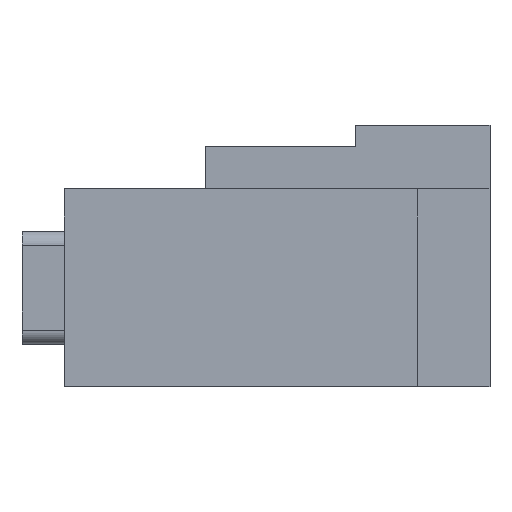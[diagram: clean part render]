
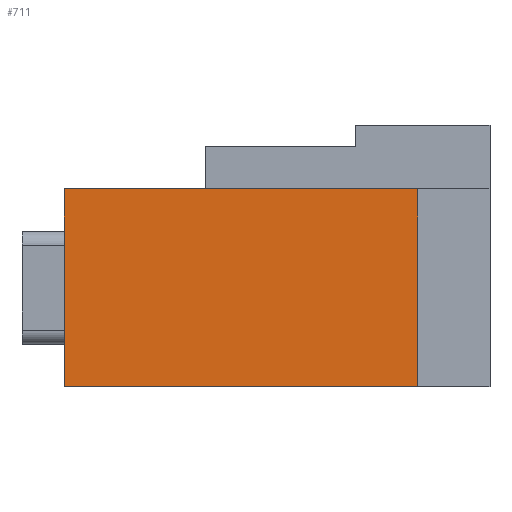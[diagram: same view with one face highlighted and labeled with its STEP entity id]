
A CAD part, front view. The second image highlights one B-rep face of the part: STEP entity #711.
In plain terms, the highlighted planar face has unit normal (0, -1, 0).
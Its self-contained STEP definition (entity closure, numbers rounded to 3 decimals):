
#72 = PLANE('',#73);
#73 = AXIS2_PLACEMENT_3D('',#74,#75,#76);
#74 = CARTESIAN_POINT('',(-155.,0.,0.));
#75 = DIRECTION('',(-1.,-0.,-0.));
#76 = DIRECTION('',(0.,0.,-1.));
#304 = EDGE_CURVE('',#305,#307,#309,.T.);
#305 = VERTEX_POINT('',#306);
#306 = CARTESIAN_POINT('',(-155.,0.,0.));
#307 = VERTEX_POINT('',#308);
#308 = CARTESIAN_POINT('',(-155.,0.,28.));
#309 = SURFACE_CURVE('',#310,(#314,#321),.PCURVE_S1.);
#310 = LINE('',#311,#312);
#311 = CARTESIAN_POINT('',(-155.,0.,0.));
#312 = VECTOR('',#313,1.);
#313 = DIRECTION('',(-0.,-0.,1.));
#314 = PCURVE('',#72,#315);
#315 = DEFINITIONAL_REPRESENTATION('',(#316),#320);
#316 = LINE('',#317,#318);
#317 = CARTESIAN_POINT('',(-0.,-0.));
#318 = VECTOR('',#319,1.);
#319 = DIRECTION('',(-1.,-0.));
#320 = ( GEOMETRIC_REPRESENTATION_CONTEXT(2) 
PARAMETRIC_REPRESENTATION_CONTEXT() REPRESENTATION_CONTEXT('2D SPACE',''
  ) );
#321 = PCURVE('',#322,#327);
#322 = PLANE('',#323);
#323 = AXIS2_PLACEMENT_3D('',#324,#325,#326);
#324 = CARTESIAN_POINT('',(-155.,0.,0.));
#325 = DIRECTION('',(-0.,1.,-0.));
#326 = DIRECTION('',(0.,0.,-1.));
#327 = DEFINITIONAL_REPRESENTATION('',(#328),#332);
#328 = LINE('',#329,#330);
#329 = CARTESIAN_POINT('',(-0.,-0.));
#330 = VECTOR('',#331,1.);
#331 = DIRECTION('',(-1.,0.));
#332 = ( GEOMETRIC_REPRESENTATION_CONTEXT(2) 
PARAMETRIC_REPRESENTATION_CONTEXT() REPRESENTATION_CONTEXT('2D SPACE',''
  ) );
#350 = PLANE('',#351);
#351 = AXIS2_PLACEMENT_3D('',#352,#353,#354);
#352 = CARTESIAN_POINT('',(-155.,0.,0.));
#353 = DIRECTION('',(-0.,-0.,1.));
#354 = DIRECTION('',(1.,0.,0.));
#473 = PLANE('',#474);
#474 = AXIS2_PLACEMENT_3D('',#475,#476,#477);
#475 = CARTESIAN_POINT('',(-155.,0.,28.));
#476 = DIRECTION('',(-0.,-0.,1.));
#477 = DIRECTION('',(1.,0.,0.));
#711 = ADVANCED_FACE('',(#712),#322,.F.);
#712 = FACE_BOUND('',#713,.T.);
#713 = EDGE_LOOP('',(#714,#737,#738,#761));
#714 = ORIENTED_EDGE('',*,*,#715,.F.);
#715 = EDGE_CURVE('',#305,#716,#718,.T.);
#716 = VERTEX_POINT('',#717);
#717 = CARTESIAN_POINT('',(-205.,0.,0.));
#718 = SURFACE_CURVE('',#719,(#723,#730),.PCURVE_S1.);
#719 = LINE('',#720,#721);
#720 = CARTESIAN_POINT('',(-155.,0.,0.));
#721 = VECTOR('',#722,1.);
#722 = DIRECTION('',(-1.,-0.,-0.));
#723 = PCURVE('',#322,#724);
#724 = DEFINITIONAL_REPRESENTATION('',(#725),#729);
#725 = LINE('',#726,#727);
#726 = CARTESIAN_POINT('',(-0.,-0.));
#727 = VECTOR('',#728,1.);
#728 = DIRECTION('',(-0.,1.));
#729 = ( GEOMETRIC_REPRESENTATION_CONTEXT(2) 
PARAMETRIC_REPRESENTATION_CONTEXT() REPRESENTATION_CONTEXT('2D SPACE',''
  ) );
#730 = PCURVE('',#350,#731);
#731 = DEFINITIONAL_REPRESENTATION('',(#732),#736);
#732 = LINE('',#733,#734);
#733 = CARTESIAN_POINT('',(0.,-0.));
#734 = VECTOR('',#735,1.);
#735 = DIRECTION('',(-1.,0.));
#736 = ( GEOMETRIC_REPRESENTATION_CONTEXT(2) 
PARAMETRIC_REPRESENTATION_CONTEXT() REPRESENTATION_CONTEXT('2D SPACE',''
  ) );
#737 = ORIENTED_EDGE('',*,*,#304,.T.);
#738 = ORIENTED_EDGE('',*,*,#739,.F.);
#739 = EDGE_CURVE('',#740,#307,#742,.T.);
#740 = VERTEX_POINT('',#741);
#741 = CARTESIAN_POINT('',(-205.,0.,28.));
#742 = SURFACE_CURVE('',#743,(#747,#754),.PCURVE_S1.);
#743 = LINE('',#744,#745);
#744 = CARTESIAN_POINT('',(-205.,0.,28.));
#745 = VECTOR('',#746,1.);
#746 = DIRECTION('',(1.,-0.,-0.));
#747 = PCURVE('',#322,#748);
#748 = DEFINITIONAL_REPRESENTATION('',(#749),#753);
#749 = LINE('',#750,#751);
#750 = CARTESIAN_POINT('',(-28.,50.));
#751 = VECTOR('',#752,1.);
#752 = DIRECTION('',(-0.,-1.));
#753 = ( GEOMETRIC_REPRESENTATION_CONTEXT(2) 
PARAMETRIC_REPRESENTATION_CONTEXT() REPRESENTATION_CONTEXT('2D SPACE',''
  ) );
#754 = PCURVE('',#473,#755);
#755 = DEFINITIONAL_REPRESENTATION('',(#756),#760);
#756 = LINE('',#757,#758);
#757 = CARTESIAN_POINT('',(-50.,0.));
#758 = VECTOR('',#759,1.);
#759 = DIRECTION('',(1.,-0.));
#760 = ( GEOMETRIC_REPRESENTATION_CONTEXT(2) 
PARAMETRIC_REPRESENTATION_CONTEXT() REPRESENTATION_CONTEXT('2D SPACE',''
  ) );
#761 = ORIENTED_EDGE('',*,*,#762,.F.);
#762 = EDGE_CURVE('',#716,#740,#763,.T.);
#763 = SURFACE_CURVE('',#764,(#768,#775),.PCURVE_S1.);
#764 = LINE('',#765,#766);
#765 = CARTESIAN_POINT('',(-205.,0.,0.));
#766 = VECTOR('',#767,1.);
#767 = DIRECTION('',(0.,0.,1.));
#768 = PCURVE('',#322,#769);
#769 = DEFINITIONAL_REPRESENTATION('',(#770),#774);
#770 = LINE('',#771,#772);
#771 = CARTESIAN_POINT('',(-0.,50.));
#772 = VECTOR('',#773,1.);
#773 = DIRECTION('',(-1.,-0.));
#774 = ( GEOMETRIC_REPRESENTATION_CONTEXT(2) 
PARAMETRIC_REPRESENTATION_CONTEXT() REPRESENTATION_CONTEXT('2D SPACE',''
  ) );
#775 = PCURVE('',#776,#781);
#776 = PLANE('',#777);
#777 = AXIS2_PLACEMENT_3D('',#778,#779,#780);
#778 = CARTESIAN_POINT('',(-205.,0.,0.));
#779 = DIRECTION('',(-1.,-0.,-0.));
#780 = DIRECTION('',(0.,0.,-1.));
#781 = DEFINITIONAL_REPRESENTATION('',(#782),#786);
#782 = LINE('',#783,#784);
#783 = CARTESIAN_POINT('',(-0.,-0.));
#784 = VECTOR('',#785,1.);
#785 = DIRECTION('',(-1.,-0.));
#786 = ( GEOMETRIC_REPRESENTATION_CONTEXT(2) 
PARAMETRIC_REPRESENTATION_CONTEXT() REPRESENTATION_CONTEXT('2D SPACE',''
  ) );
